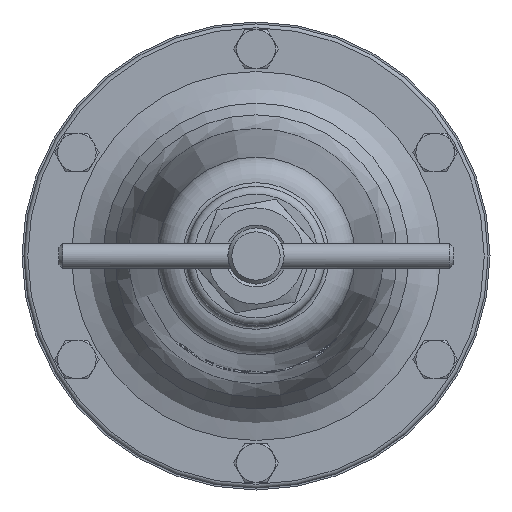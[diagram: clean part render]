
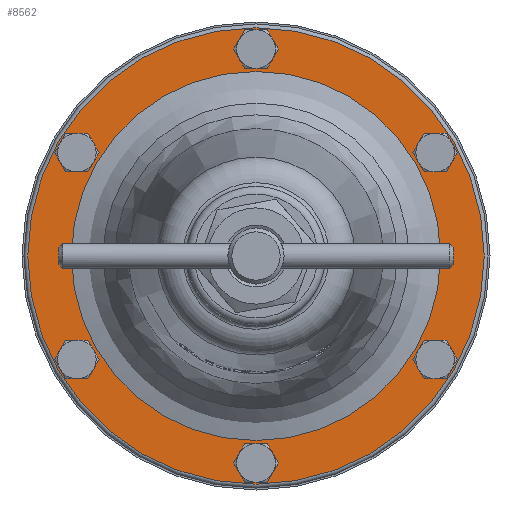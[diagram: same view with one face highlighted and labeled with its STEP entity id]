
A CAD part, front view. The second image highlights one B-rep face of the part: STEP entity #8562.
In plain terms, the highlighted planar face has unit normal (0, -1, 0).
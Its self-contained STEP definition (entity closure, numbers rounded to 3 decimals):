
#8454=CARTESIAN_POINT('',(59.0,-51.0,0.));
#8455=VERTEX_POINT('',#8454);
#8456=CARTESIAN_POINT('',(0.,-51.0,0.));
#8457=DIRECTION('',(0.0,1.0,0.0));
#8458=DIRECTION('',(-1.0,0.0,0.0));
#8459=AXIS2_PLACEMENT_3D('',#8456,#8457,#8458);
#8460=CIRCLE('',#8459,59.0);
#8461=EDGE_CURVE('',#8455,#8455,#8460,.T.);
#8477=CARTESIAN_POINT('',(0.,-51.0,0.));
#8478=DIRECTION('',(0.0,1.0,0.0));
#8479=DIRECTION('',(0.0,0.0,1.0));
#8480=AXIS2_PLACEMENT_3D('',#8477,#8478,#8479);
#8481=PLANE('',#8480);
#8482=ORIENTED_EDGE('',*,*,#8461,.F.);
#8483=EDGE_LOOP('',(#8482));
#8484=FACE_OUTER_BOUND('',#8483,.T.);
#8485=CARTESIAN_POINT('',(47.706,-51.0,0.));
#8486=VERTEX_POINT('',#8485);
#8487=CARTESIAN_POINT('',(0.,-51.0,0.));
#8488=DIRECTION('',(0.0,-1.0,0.0));
#8489=DIRECTION('',(-1.0,0.0,0.0));
#8490=AXIS2_PLACEMENT_3D('',#8487,#8488,#8489);
#8491=CIRCLE('',#8490,47.706);
#8492=EDGE_CURVE('',#8486,#8486,#8491,.T.);
#8493=ORIENTED_EDGE('',*,*,#8492,.F.);
#8494=EDGE_LOOP('',(#8493));
#8495=FACE_BOUND('',#8494,.T.);
#8496=CARTESIAN_POINT('',(49.332,-51.0,26.75));
#8497=VERTEX_POINT('',#8496);
#8498=CARTESIAN_POINT('',(46.332,-51.,26.75));
#8499=DIRECTION('',(0.0,1.0,0.0));
#8500=DIRECTION('',(-1.0,0.0,0.0));
#8501=AXIS2_PLACEMENT_3D('',#8498,#8499,#8500);
#8502=CIRCLE('',#8501,3.);
#8503=EDGE_CURVE('',#8497,#8497,#8502,.T.);
#8504=ORIENTED_EDGE('',*,*,#8503,.T.);
#8505=EDGE_LOOP('',(#8504));
#8506=FACE_BOUND('',#8505,.T.);
#8507=CARTESIAN_POINT('',(3.,-51.,53.5));
#8508=VERTEX_POINT('',#8507);
#8509=CARTESIAN_POINT('',(0.,-51.0,53.5));
#8510=DIRECTION('',(0.0,1.0,0.0));
#8511=DIRECTION('',(-1.0,0.0,0.0));
#8512=AXIS2_PLACEMENT_3D('',#8509,#8510,#8511);
#8513=CIRCLE('',#8512,3.);
#8514=EDGE_CURVE('',#8508,#8508,#8513,.T.);
#8515=ORIENTED_EDGE('',*,*,#8514,.T.);
#8516=EDGE_LOOP('',(#8515));
#8517=FACE_BOUND('',#8516,.T.);
#8518=CARTESIAN_POINT('',(-43.332,-51.0,26.75));
#8519=VERTEX_POINT('',#8518);
#8520=CARTESIAN_POINT('',(-46.332,-51.,26.75));
#8521=DIRECTION('',(0.0,1.0,0.0));
#8522=DIRECTION('',(-1.0,0.0,0.0));
#8523=AXIS2_PLACEMENT_3D('',#8520,#8521,#8522);
#8524=CIRCLE('',#8523,3.);
#8525=EDGE_CURVE('',#8519,#8519,#8524,.T.);
#8526=ORIENTED_EDGE('',*,*,#8525,.T.);
#8527=EDGE_LOOP('',(#8526));
#8528=FACE_BOUND('',#8527,.T.);
#8529=CARTESIAN_POINT('',(-43.332,-51.,-26.75));
#8530=VERTEX_POINT('',#8529);
#8531=CARTESIAN_POINT('',(-46.332,-51.,-26.75));
#8532=DIRECTION('',(0.0,1.0,0.0));
#8533=DIRECTION('',(-1.0,0.0,0.0));
#8534=AXIS2_PLACEMENT_3D('',#8531,#8532,#8533);
#8535=CIRCLE('',#8534,3.);
#8536=EDGE_CURVE('',#8530,#8530,#8535,.T.);
#8537=ORIENTED_EDGE('',*,*,#8536,.T.);
#8538=EDGE_LOOP('',(#8537));
#8539=FACE_BOUND('',#8538,.T.);
#8540=CARTESIAN_POINT('',(3.,-51.,-53.5));
#8541=VERTEX_POINT('',#8540);
#8542=CARTESIAN_POINT('',(0.,-51.0,-53.5));
#8543=DIRECTION('',(0.0,1.0,0.0));
#8544=DIRECTION('',(-1.0,0.0,0.0));
#8545=AXIS2_PLACEMENT_3D('',#8542,#8543,#8544);
#8546=CIRCLE('',#8545,3.);
#8547=EDGE_CURVE('',#8541,#8541,#8546,.T.);
#8548=ORIENTED_EDGE('',*,*,#8547,.T.);
#8549=EDGE_LOOP('',(#8548));
#8550=FACE_BOUND('',#8549,.T.);
#8551=CARTESIAN_POINT('',(49.332,-51.,-26.75));
#8552=VERTEX_POINT('',#8551);
#8553=CARTESIAN_POINT('',(46.332,-51.,-26.75));
#8554=DIRECTION('',(0.0,1.0,0.0));
#8555=DIRECTION('',(-1.0,0.0,0.0));
#8556=AXIS2_PLACEMENT_3D('',#8553,#8554,#8555);
#8557=CIRCLE('',#8556,3.);
#8558=EDGE_CURVE('',#8552,#8552,#8557,.T.);
#8559=ORIENTED_EDGE('',*,*,#8558,.T.);
#8560=EDGE_LOOP('',(#8559));
#8561=FACE_BOUND('',#8560,.T.);
#8562=ADVANCED_FACE('',(#8484,#8495,#8506,#8517,#8528,#8539,#8550,#8561),#8481,.F.);
